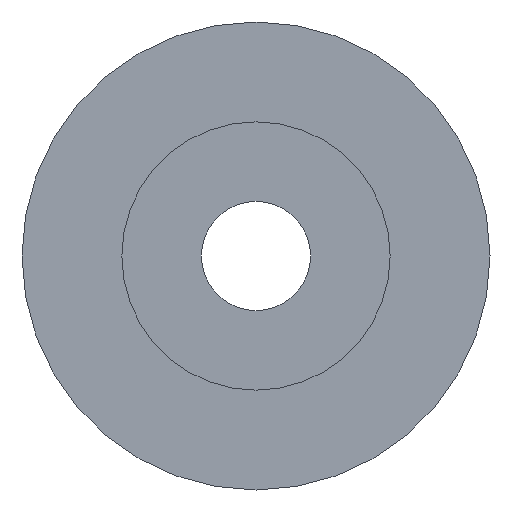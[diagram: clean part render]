
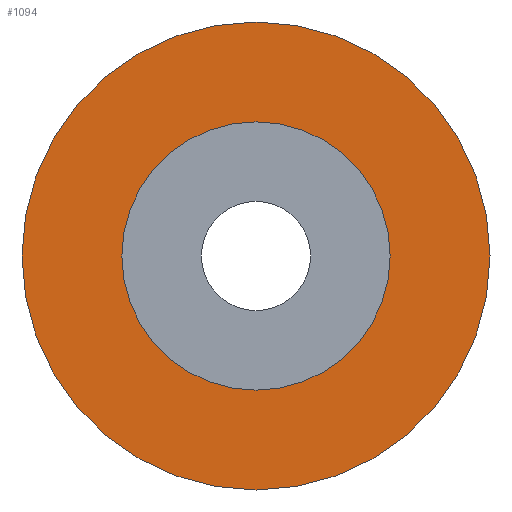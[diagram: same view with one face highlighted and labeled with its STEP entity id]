
A CAD part, left-side view. The second image highlights one B-rep face of the part: STEP entity #1094.
In plain terms, the highlighted planar face has unit normal (-1, 0, 0).
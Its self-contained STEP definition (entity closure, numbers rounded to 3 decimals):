
#130=CARTESIAN_POINT('',(0.,8.6,0.0));
#131=VERTEX_POINT('',#130);
#140=CARTESIAN_POINT('',(0.,-8.6,0.));
#141=VERTEX_POINT('',#140);
#142=CARTESIAN_POINT('',(0.,0.0,0.0));
#143=DIRECTION('',(1.0,0.0,0.0));
#144=DIRECTION('',(0.0,1.0,0.0));
#145=AXIS2_PLACEMENT_3D('',#142,#143,#144);
#146=CIRCLE('',#145,8.6);
#147=EDGE_CURVE('',#141,#131,#146,.T.);
#448=CARTESIAN_POINT('',(0.,15.0,0.0));
#449=VERTEX_POINT('',#448);
#458=CARTESIAN_POINT('',(0.,-15.0,0.));
#459=VERTEX_POINT('',#458);
#460=CARTESIAN_POINT('',(0.,0.0,0.0));
#461=DIRECTION('',(1.0,0.0,0.0));
#462=DIRECTION('',(0.0,1.0,0.0));
#463=AXIS2_PLACEMENT_3D('',#460,#461,#462);
#464=CIRCLE('',#463,15.0);
#465=EDGE_CURVE('',#449,#459,#464,.T.);
#869=CARTESIAN_POINT('',(0.,0.0,0.0));
#870=DIRECTION('',(1.0,0.0,0.0));
#871=DIRECTION('',(0.0,1.0,0.0));
#872=AXIS2_PLACEMENT_3D('',#869,#870,#871);
#873=CIRCLE('',#872,15.0);
#874=EDGE_CURVE('',#459,#449,#873,.T.);
#1071=CARTESIAN_POINT('',(0.,0.0,0.0));
#1072=DIRECTION('',(1.0,0.0,0.0));
#1073=DIRECTION('',(0.0,1.0,0.0));
#1074=AXIS2_PLACEMENT_3D('',#1071,#1072,#1073);
#1075=CIRCLE('',#1074,8.6);
#1076=EDGE_CURVE('',#131,#141,#1075,.T.);
#1081=CARTESIAN_POINT('',(0.,11.8,0.0));
#1082=DIRECTION('',(-1.0,0.0,0.0));
#1083=DIRECTION('',(0.0,0.0,1.0));
#1084=AXIS2_PLACEMENT_3D('',#1081,#1082,#1083);
#1085=PLANE('',#1084);
#1086=ORIENTED_EDGE('',*,*,#465,.F.);
#1087=ORIENTED_EDGE('',*,*,#874,.F.);
#1088=EDGE_LOOP('',(#1086,#1087));
#1089=FACE_OUTER_BOUND('',#1088,.T.);
#1090=ORIENTED_EDGE('',*,*,#1076,.T.);
#1091=ORIENTED_EDGE('',*,*,#147,.T.);
#1092=EDGE_LOOP('',(#1090,#1091));
#1093=FACE_BOUND('',#1092,.T.);
#1094=ADVANCED_FACE('',(#1089,#1093),#1085,.T.);
